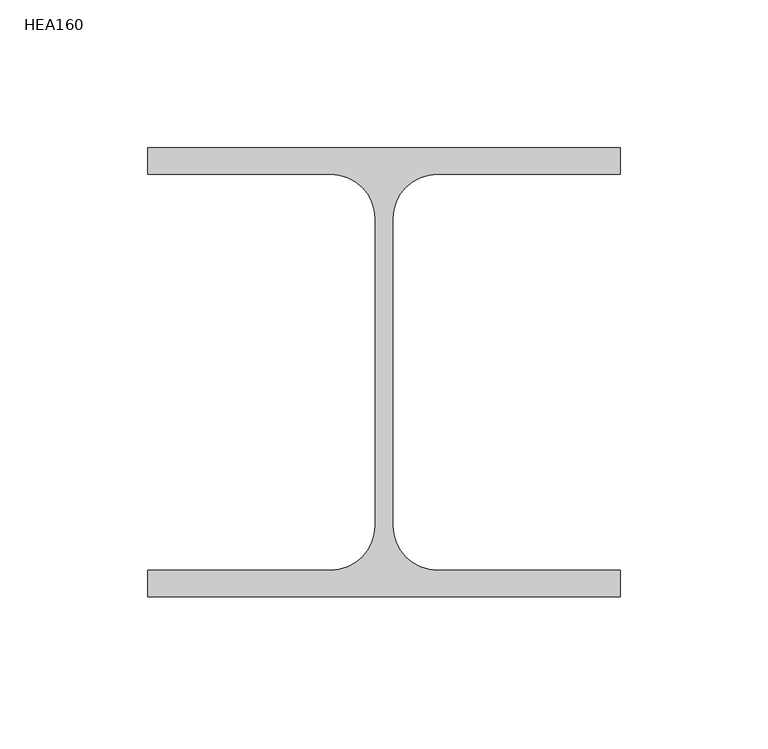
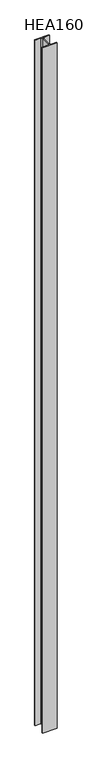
"""IFC4 building model written with IfcOpenShell, lengths in millimetres: column geometry, Poteau HE-A : HEA160."""

from ifc_helpers import new_model, si_unit, point, frame, frame_2d, origin, place, context, project, spatial, polyline, circle_curve, trimmed, segment, composite_curve, outline, extrude, source, transform, mapped, element, save


def hea160_0ed8a569(model_context):
    return source(origin(), model_context, "Body", "SweptSolid", [
        extrude(outline(composite_curve([segment(polyline([(80.0, 76.0), (80.0, 67.0), (18.0, 67.0)]), True, "CONTINUOUS"), segment(trimmed(circle_curve(frame_2d((18.0, 52.0)), 15.0), [point((18.0, 67.0))], [point((3.0, 52.0))], True, "CARTESIAN"), True, "CONTINUOUS"), segment(polyline([(3.0, 52.0), (3.0, -52.0)]), True, "CONTINUOUS"), segment(trimmed(circle_curve(frame_2d((18.0, -52.0)), 15.0), [point((3.0, -52.0))], [point((18.0, -67.0))], True, "CARTESIAN"), True, "CONTINUOUS"), segment(polyline([(18.0, -67.0), (80.0, -67.0), (80.0, -76.0), (-80.0, -76.0), (-80.0, -67.0), (-18.0, -67.0)]), True, "CONTINUOUS"), segment(trimmed(circle_curve(frame_2d((-18.0, -52.0)), 15.0), [point((-18.0, -67.0))], [point((-3.0, -52.0))], True, "CARTESIAN"), True, "CONTINUOUS"), segment(polyline([(-3.0, -52.0), (-3.0, 52.0)]), True, "CONTINUOUS"), segment(trimmed(circle_curve(frame_2d((-18.0, 52.0)), 15.0), [point((-3.0, 52.0))], [point((-18.0, 67.0))], True, "CARTESIAN"), True, "CONTINUOUS"), segment(polyline([(-18.0, 67.0), (-80.0, 67.0), (-80.0, 76.0), (80.0, 76.0)]), True, "CONTINUOUS")], self_intersect=False)), frame((0.0, 0.0, -300.0), z_axis=(0.0, 0.0, 1.0), x_axis=(1.0, 0.0, 0.0)), (0.0, 0.0, 1.0), 8040.0),
    ])


if __name__ == "__main__":
    model = new_model("IFC4")
    model_context = context("Model", 3, world=origin())
    ifc_project = project(units=[si_unit("LENGTHUNIT", "METRE", prefix="MILLI")], contexts=[model_context])
    site = spatial("IfcSite", under=ifc_project)
    building = spatial("IfcBuilding", under=site)
    placement = place(None, origin())
    hea160_shape = hea160_0ed8a569(model_context)
    element("IfcColumn", 1, ObjectType="Poteau HE-A : HEA160", at=placement, inside=building, context=model_context, shape_type="MappedRepresentation", body=[
        mapped(hea160_shape, transform((0.0, 0.0, 0.0), x_axis=(1.0, 0.0, 0.0), y_axis=(0.0, 1.0, 0.0), z_axis=(0.0, 0.0, 1.0))),
    ])
    save(model, "model.ifc")
